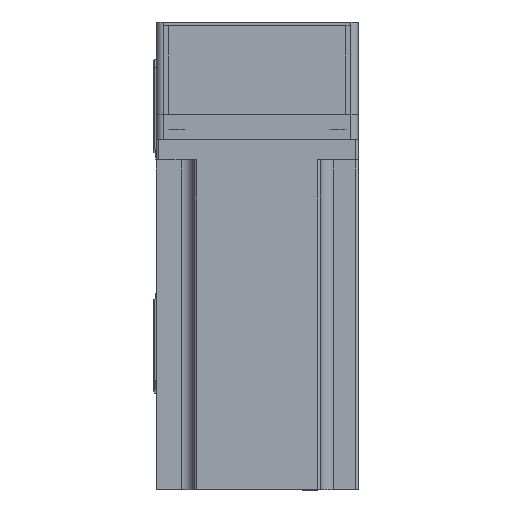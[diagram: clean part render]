
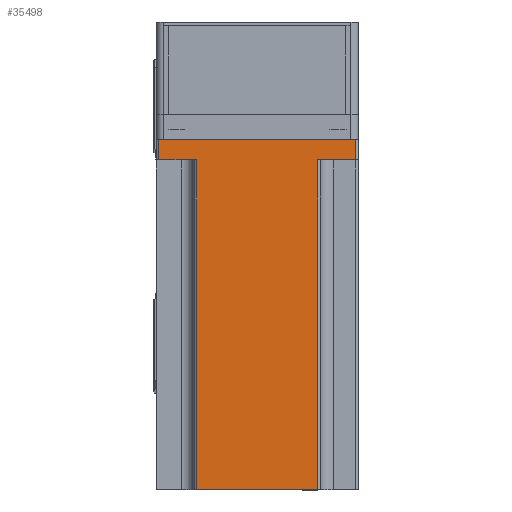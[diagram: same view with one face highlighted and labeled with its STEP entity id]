
A CAD part, top view. The second image highlights one B-rep face of the part: STEP entity #35498.
In plain terms, the highlighted planar face has unit normal (0, 0, 1) as drawn and (0, 1, 0) by its records, which use the part's own axes.
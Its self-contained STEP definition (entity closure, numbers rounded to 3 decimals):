
#1407 = VECTOR ( 'NONE', #12054, 1000. ) ;
#2748 = EDGE_CURVE ( 'NONE', #43643, #35642, #47776, .T. ) ;
#3087 = VECTOR ( 'NONE', #37039, 1000. ) ;
#3865 = VERTEX_POINT ( 'NONE', #27385 ) ;
#5527 = EDGE_CURVE ( 'NONE', #3865, #35367, #33970, .T. ) ;
#6443 = VERTEX_POINT ( 'NONE', #10703 ) ;
#6664 = EDGE_CURVE ( 'NONE', #38143, #10061, #11812, .T. ) ;
#7006 = FACE_OUTER_BOUND ( 'NONE', #48506, .T. ) ;
#7183 = VECTOR ( 'NONE', #11811, 1000. ) ;
#8140 = CARTESIAN_POINT ( 'NONE',  ( 40., 40., 0. ) ) ;
#9410 = DIRECTION ( 'NONE',  ( 0., 0., 1. ) ) ;
#10061 = VERTEX_POINT ( 'NONE', #14542 ) ;
#10703 = CARTESIAN_POINT ( 'NONE',  ( 24., 40., 8. ) ) ;
#11811 = DIRECTION ( 'NONE',  ( 0., 0., 1. ) ) ;
#11812 = LINE ( 'NONE', #8140, #1407 ) ;
#12054 = DIRECTION ( 'NONE',  ( -1., 0., 0. ) ) ;
#13032 = LINE ( 'NONE', #30369, #42657 ) ;
#14542 = CARTESIAN_POINT ( 'NONE',  ( -39., 40., 0. ) ) ;
#15189 = ORIENTED_EDGE ( 'NONE', *, *, #49532, .T. ) ;
#16432 = DIRECTION ( 'NONE',  ( 0., -1., 0. ) ) ;
#16485 = ORIENTED_EDGE ( 'NONE', *, *, #19813, .T. ) ;
#17113 = DIRECTION ( 'NONE',  ( 1., 0., 0. ) ) ;
#18935 = DIRECTION ( 'NONE',  ( -1., 0., 0. ) ) ;
#19123 = VECTOR ( 'NONE', #9410, 1000. ) ;
#19813 = EDGE_CURVE ( 'NONE', #35642, #35367, #36797, .T. ) ;
#19866 = VERTEX_POINT ( 'NONE', #27283 ) ;
#21706 = EDGE_CURVE ( 'NONE', #19866, #6443, #24430, .T. ) ;
#22635 = CARTESIAN_POINT ( 'NONE',  ( 24., 40., 138.3 ) ) ;
#23077 = DIRECTION ( 'NONE',  ( 0., 0., -1. ) ) ;
#24430 = LINE ( 'NONE', #49932, #34766 ) ;
#24730 = CARTESIAN_POINT ( 'NONE',  ( -39., 40., 138.3 ) ) ;
#24818 = EDGE_CURVE ( 'NONE', #10061, #43643, #39726, .T. ) ;
#25020 = LINE ( 'NONE', #22635, #35351 ) ;
#27283 = CARTESIAN_POINT ( 'NONE',  ( 39., 40., 8. ) ) ;
#27385 = CARTESIAN_POINT ( 'NONE',  ( 24., 40., 138.3 ) ) ;
#28605 = ORIENTED_EDGE ( 'NONE', *, *, #5527, .F. ) ;
#28801 = CARTESIAN_POINT ( 'NONE',  ( 39., 40., 0. ) ) ;
#29123 = ORIENTED_EDGE ( 'NONE', *, *, #21706, .F. ) ;
#30369 = CARTESIAN_POINT ( 'NONE',  ( 39., 40., 138.3 ) ) ;
#30429 = DIRECTION ( 'NONE',  ( 0., 0., -1. ) ) ;
#32780 = CARTESIAN_POINT ( 'NONE',  ( -24., 40., 8. ) ) ;
#33970 = LINE ( 'NONE', #40963, #3087 ) ;
#34766 = VECTOR ( 'NONE', #18935, 1000. ) ;
#34931 = CARTESIAN_POINT ( 'NONE',  ( -24., 40., 138.3 ) ) ;
#35351 = VECTOR ( 'NONE', #30429, 1000. ) ;
#35367 = VERTEX_POINT ( 'NONE', #42506 ) ;
#35498 = ADVANCED_FACE ( 'NONE', ( #7006 ), #47219, .F. ) ;
#35642 = VERTEX_POINT ( 'NONE', #32780 ) ;
#36797 = LINE ( 'NONE', #34931, #7183 ) ;
#37039 = DIRECTION ( 'NONE',  ( -1., 0., 0. ) ) ;
#37247 = ORIENTED_EDGE ( 'NONE', *, *, #24818, .T. ) ;
#37345 = CARTESIAN_POINT ( 'NONE',  ( -39., 40., 8. ) ) ;
#37452 = VECTOR ( 'NONE', #17113, 1000. ) ;
#38143 = VERTEX_POINT ( 'NONE', #28801 ) ;
#39591 = CARTESIAN_POINT ( 'NONE',  ( 40., 40., 138.3 ) ) ;
#39726 = LINE ( 'NONE', #24730, #19123 ) ;
#40282 = AXIS2_PLACEMENT_3D ( 'NONE', #39591, #16432, #43493 ) ;
#40963 = CARTESIAN_POINT ( 'NONE',  ( 40., 40., 138.3 ) ) ;
#42506 = CARTESIAN_POINT ( 'NONE',  ( -24., 40., 138.3 ) ) ;
#42622 = ORIENTED_EDGE ( 'NONE', *, *, #2748, .T. ) ;
#42657 = VECTOR ( 'NONE', #23077, 1000. ) ;
#43493 = DIRECTION ( 'NONE',  ( 1., 0., 0. ) ) ;
#43643 = VERTEX_POINT ( 'NONE', #37345 ) ;
#43995 = CARTESIAN_POINT ( 'NONE',  ( -25., 40., 8. ) ) ;
#45746 = ORIENTED_EDGE ( 'NONE', *, *, #6664, .T. ) ;
#47219 = PLANE ( 'NONE',  #40282 ) ;
#47776 = LINE ( 'NONE', #43995, #37452 ) ;
#48412 = ORIENTED_EDGE ( 'NONE', *, *, #49386, .T. ) ;
#48506 = EDGE_LOOP ( 'NONE', ( #42622, #16485, #28605, #15189, #29123, #48412, #45746, #37247 ) ) ;
#49386 = EDGE_CURVE ( 'NONE', #19866, #38143, #13032, .T. ) ;
#49532 = EDGE_CURVE ( 'NONE', #3865, #6443, #25020, .T. ) ;
#49932 = CARTESIAN_POINT ( 'NONE',  ( 25., 40., 8. ) ) ;
